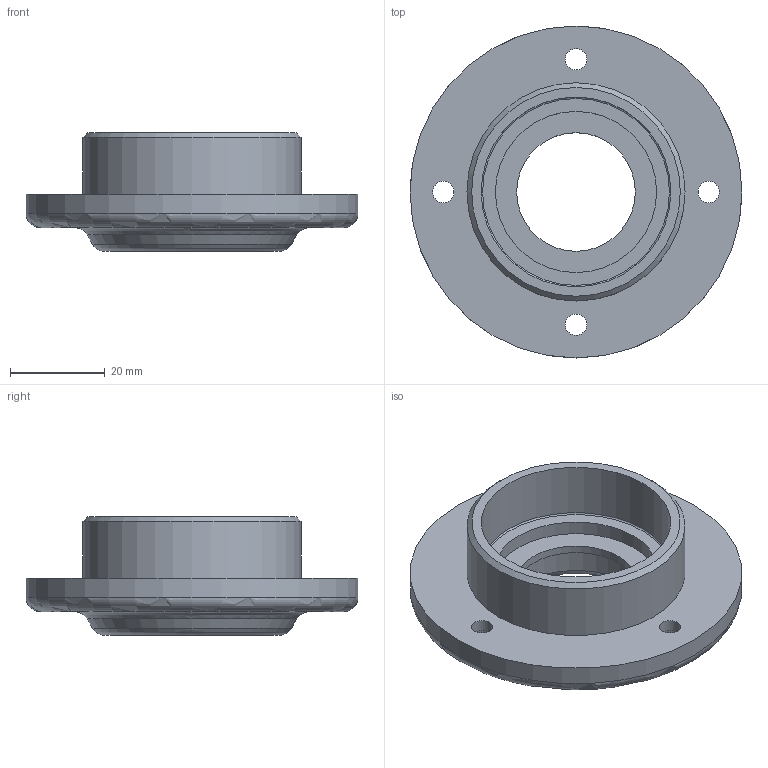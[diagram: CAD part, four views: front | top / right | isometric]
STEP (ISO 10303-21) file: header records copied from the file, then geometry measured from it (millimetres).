
FILE_DESCRIPTION(/* description */ (''),/* implementation_level */ '2;1');
FILE_NAME(/* name */ '',/* time_stamp */ '2025-04-29T13:14:48+09:00',/* author */ ('jhkim'),/* organization */ ('한국ATC센터'),/* preprocessor_version */ 'ST-DEVELOPER v20.1',/* originating_system */ 'Autodesk Inventor 2026',/* authorisation */ '');
FILE_SCHEMA (('AUTOMOTIVE_DESIGN { 1 0 10303 214 3 1 1 }'));
Length unit declared in the file: millimetre
Products named in the file (1): 윗 커버
Bounding box: 70 x 70 x 25 mm (x, y, z)
Volume: 28974.7 mm3; surface area: 13244.3 mm2
Topology: 1 solids, 1 shells, 36 faces, 78 edges, 48 vertices
Faces by surface type: plane 14, cylinder 14, torus 5, cone 3
Full cylindrical faces by diameter (mm): 4.5 x4, 8 x4, 25 x1, 32 x1, 34 x1, 40 x1, 46 x1, 70 x1
Entity records: 1134 total; most frequent: CARTESIAN_POINT 251, DIRECTION 197, ORIENTED_EDGE 156, AXIS2_PLACEMENT_3D 90, EDGE_CURVE 78, CIRCLE 53, EDGE_LOOP 50, VERTEX_POINT 48
